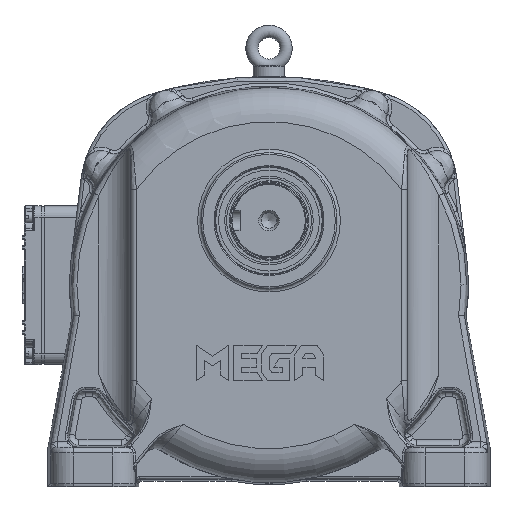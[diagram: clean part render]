
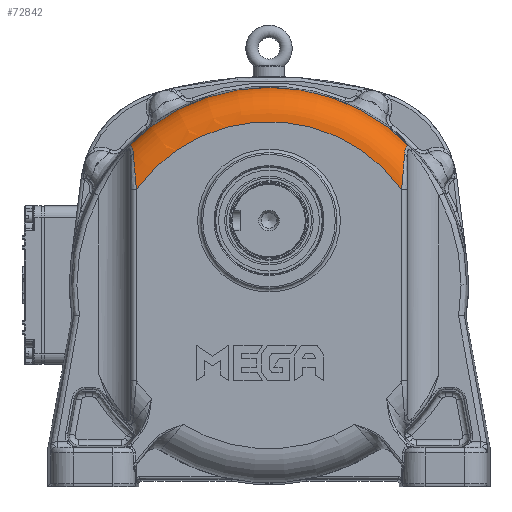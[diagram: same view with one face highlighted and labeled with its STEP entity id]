
A CAD part, front view. The second image highlights one B-rep face of the part: STEP entity #72842.
In plain terms, the highlighted toroidal (fillet/blend) face has major radius 144.309 mm and minor radius 30 mm.
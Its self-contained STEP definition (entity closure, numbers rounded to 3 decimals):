
#1776=TOROIDAL_SURFACE('',#78051,144.309,30.);
#2737=B_SPLINE_CURVE_WITH_KNOTS('',3,(#120665,#120666,#120667,#120668,#120669),
 .UNSPECIFIED.,.F.,.F.,(4,1,4),(-3.01,-1.29,0.),
 .UNSPECIFIED.);
#2738=B_SPLINE_CURVE_WITH_KNOTS('',3,(#120673,#120674,#120675,#120676,#120677,
#120678),.UNSPECIFIED.,.F.,.F.,(4,1,1,4),(-3.01,-2.15,
-1.29,0.),.UNSPECIFIED.);
#2739=B_SPLINE_CURVE_WITH_KNOTS('',3,(#120679,#120680,#120681,#120682,#120683,
#120684,#120685,#120686),.UNSPECIFIED.,.F.,.F.,(4,1,1,1,1,4),(-2.011,
-1.723,-1.436,-0.862,-0.574,
0.),.UNSPECIFIED.);
#2740=B_SPLINE_CURVE_WITH_KNOTS('',3,(#120687,#120688,#120689,#120690,#120691,
#120692,#120693,#120694),.UNSPECIFIED.,.F.,.F.,(4,1,1,1,1,4),(0.,0.574,
0.862,1.436,1.723,2.011),
 .UNSPECIFIED.);
#7749=FACE_OUTER_BOUND('',#12160,.T.);
#12160=EDGE_LOOP('',(#49992,#49993,#49994,#49995,#49996,#49997));
#25404=CIRCLE('',#78043,174.308);
#25412=CIRCLE('',#78052,144.309);
#29604=VERTEX_POINT('',#120595);
#29605=VERTEX_POINT('',#120603);
#29616=VERTEX_POINT('',#120663);
#29617=VERTEX_POINT('',#120664);
#29618=VERTEX_POINT('',#120670);
#29619=VERTEX_POINT('',#120672);
#37194=EDGE_CURVE('',#29605,#29604,#25404,.T.);
#37210=EDGE_CURVE('',#29616,#29617,#2737,.T.);
#37211=EDGE_CURVE('',#29616,#29618,#25412,.T.);
#37212=EDGE_CURVE('',#29619,#29618,#2738,.T.);
#37213=EDGE_CURVE('',#29605,#29619,#2739,.T.);
#37214=EDGE_CURVE('',#29617,#29604,#2740,.T.);
#49992=ORIENTED_EDGE('',*,*,#37210,.F.);
#49993=ORIENTED_EDGE('',*,*,#37211,.T.);
#49994=ORIENTED_EDGE('',*,*,#37212,.F.);
#49995=ORIENTED_EDGE('',*,*,#37213,.F.);
#49996=ORIENTED_EDGE('',*,*,#37194,.T.);
#49997=ORIENTED_EDGE('',*,*,#37214,.F.);
#72842=ADVANCED_FACE('',(#7749),#1776,.T.);
#78043=AXIS2_PLACEMENT_3D('',#120604,#87411,#87412);
#78051=AXIS2_PLACEMENT_3D('',#120662,#87427,#87428);
#78052=AXIS2_PLACEMENT_3D('',#120671,#87429,#87430);
#87411=DIRECTION('center_axis',(0.,-1.,0.));
#87412=DIRECTION('ref_axis',(-1.,0.,0.));
#87427=DIRECTION('center_axis',(0.,1.,0.));
#87428=DIRECTION('ref_axis',(0.,0.,1.));
#87429=DIRECTION('center_axis',(0.,1.,0.));
#87430=DIRECTION('ref_axis',(-1.,0.,0.));
#120595=CARTESIAN_POINT('',(-137.843,10.431,119.577));
#120603=CARTESIAN_POINT('',(112.46,10.431,119.577));
#120604=CARTESIAN_POINT('Origin',(-12.691,10.431,-1.75));
#120662=CARTESIAN_POINT('Origin',(-12.691,10.742,-1.75));
#120663=CARTESIAN_POINT('',(-129.691,-19.258,82.726));
#120664=CARTESIAN_POINT('',(-132.328,-9.658,113.768));
#120665=CARTESIAN_POINT('Ctrl Pts',(-129.691,-19.258,
82.726));
#120666=CARTESIAN_POINT('Ctrl Pts',(-130.235,-19.258,
88.852));
#120667=CARTESIAN_POINT('Ctrl Pts',(-131.187,-17.871,
99.762));
#120668=CARTESIAN_POINT('Ctrl Pts',(-132.023,-12.751,
109.954));
#120669=CARTESIAN_POINT('Ctrl Pts',(-132.328,-9.658,
113.768));
#120670=CARTESIAN_POINT('',(104.309,-19.258,82.726));
#120671=CARTESIAN_POINT('Origin',(-12.691,-19.258,-1.75));
#120672=CARTESIAN_POINT('',(106.946,-9.658,113.768));
#120673=CARTESIAN_POINT('Ctrl Pts',(106.946,-9.658,
113.768));
#120674=CARTESIAN_POINT('Ctrl Pts',(106.743,-11.72,
111.226));
#120675=CARTESIAN_POINT('Ctrl Pts',(106.288,-15.051,105.632));
#120676=CARTESIAN_POINT('Ctrl Pts',(105.397,-18.506,95.069));
#120677=CARTESIAN_POINT('Ctrl Pts',(104.717,-19.258,
87.321));
#120678=CARTESIAN_POINT('Ctrl Pts',(104.309,-19.258,
82.726));
#120679=CARTESIAN_POINT('Ctrl Pts',(112.46,10.431,119.577));
#120680=CARTESIAN_POINT('Ctrl Pts',(112.014,9.55,120.024));
#120681=CARTESIAN_POINT('Ctrl Pts',(111.14,7.678,120.774));
#120682=CARTESIAN_POINT('Ctrl Pts',(109.514,3.515,121.518));
#120683=CARTESIAN_POINT('Ctrl Pts',(108.279,-0.986,
120.65));
#120684=CARTESIAN_POINT('Ctrl Pts',(107.364,-5.886,
117.822));
#120685=CARTESIAN_POINT('Ctrl Pts',(107.082,-8.28,
115.467));
#120686=CARTESIAN_POINT('Ctrl Pts',(106.946,-9.658,113.768));
#120687=CARTESIAN_POINT('Ctrl Pts',(-132.328,-9.658,
113.768));
#120688=CARTESIAN_POINT('Ctrl Pts',(-132.464,-8.28,
115.467));
#120689=CARTESIAN_POINT('Ctrl Pts',(-132.747,-5.886,
117.822));
#120690=CARTESIAN_POINT('Ctrl Pts',(-133.662,-0.986,
120.65));
#120691=CARTESIAN_POINT('Ctrl Pts',(-134.896,3.515,
121.518));
#120692=CARTESIAN_POINT('Ctrl Pts',(-136.522,7.679,
120.773));
#120693=CARTESIAN_POINT('Ctrl Pts',(-137.396,9.55,
120.024));
#120694=CARTESIAN_POINT('Ctrl Pts',(-137.843,10.431,
119.577));
